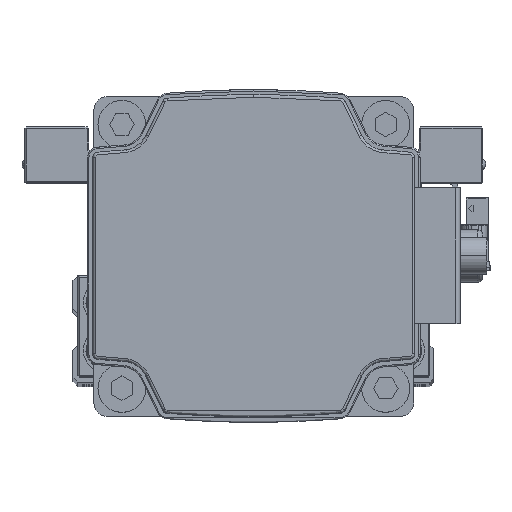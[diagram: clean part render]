
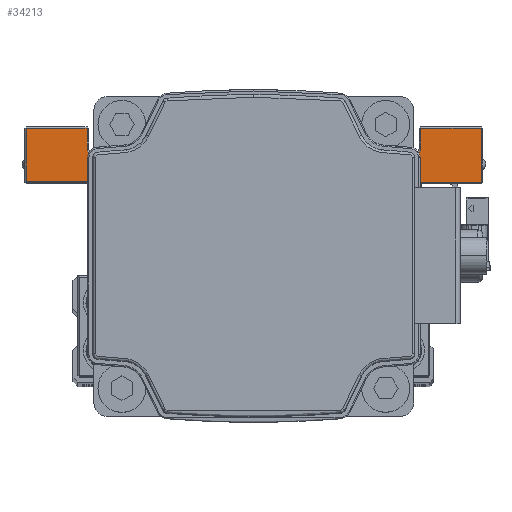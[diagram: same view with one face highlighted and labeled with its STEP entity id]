
A CAD part, top view. The second image highlights one B-rep face of the part: STEP entity #34213.
In plain terms, the highlighted planar face has unit normal (0, 0, 1) as drawn and (1, 0, 0) by its records, which use the part's own axes.
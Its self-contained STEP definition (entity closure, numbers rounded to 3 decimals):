
#71 = LINE ( 'NONE', #12624, #39124 ) ;
#563 = LINE ( 'NONE', #13104, #18527 ) ;
#1265 = ORIENTED_EDGE ( 'NONE', *, *, #25115, .T. ) ;
#1332 = CARTESIAN_POINT ( 'NONE',  ( 45., 14., 31.3 ) ) ;
#1529 = VERTEX_POINT ( 'NONE', #13995 ) ;
#1790 = DIRECTION ( 'NONE',  ( -1., 0., 0. ) ) ;
#2439 = CARTESIAN_POINT ( 'NONE',  ( 45., 17.7, -31.3 ) ) ;
#2680 = VECTOR ( 'NONE', #7727, 1000. ) ;
#2799 = CARTESIAN_POINT ( 'NONE',  ( 45., 17.7, -20. ) ) ;
#3111 = LINE ( 'NONE', #15665, #25049 ) ;
#3822 = ORIENTED_EDGE ( 'NONE', *, *, #33594, .T. ) ;
#3880 = CARTESIAN_POINT ( 'NONE',  ( 45., 14., -31.3 ) ) ;
#5489 = CARTESIAN_POINT ( 'NONE',  ( 45., 17.7, -42.7 ) ) ;
#5996 = CARTESIAN_POINT ( 'NONE',  ( 45., 7.5, -19.7 ) ) ;
#6068 = VECTOR ( 'NONE', #35204, 1000. ) ;
#6730 = LINE ( 'NONE', #19279, #21924 ) ;
#7092 = EDGE_CURVE ( 'NONE', #13687, #33086, #6730, .T. ) ;
#7260 = VECTOR ( 'NONE', #18561, 1000. ) ;
#7468 = EDGE_CURVE ( 'NONE', #19143, #19203, #563, .T. ) ;
#7520 = EDGE_CURVE ( 'NONE', #1529, #9198, #38595, .T. ) ;
#7727 = DIRECTION ( 'NONE',  ( 0., 0., 1. ) ) ;
#7892 = EDGE_CURVE ( 'NONE', #26796, #23742, #10120, .T. ) ;
#7898 = CARTESIAN_POINT ( 'NONE',  ( 45., 17.7, 31.3 ) ) ;
#8401 = EDGE_LOOP ( 'NONE', ( #1265, #23229, #3822, #33578, #20178, #11636, #16940, #30286, #16565, #33207, #12419, #19901, #18996, #33337 ) ) ;
#8843 = CARTESIAN_POINT ( 'NONE',  ( 45., 12.7, -30. ) ) ;
#9198 = VERTEX_POINT ( 'NONE', #26205 ) ;
#10120 = LINE ( 'NONE', #22673, #6068 ) ;
#10407 = CARTESIAN_POINT ( 'NONE',  ( 45., 7.5, 42.7 ) ) ;
#10420 = CARTESIAN_POINT ( 'NONE',  ( 45., 14., -30. ) ) ;
#10693 = EDGE_CURVE ( 'NONE', #34943, #26699, #71, .T. ) ;
#11041 = DIRECTION ( 'NONE',  ( -1., 0., 0. ) ) ;
#11226 = LINE ( 'NONE', #23775, #18452 ) ;
#11429 = LINE ( 'NONE', #23973, #13509 ) ;
#11488 = DIRECTION ( 'NONE',  ( 0., 0., -1. ) ) ;
#11636 = ORIENTED_EDGE ( 'NONE', *, *, #38144, .T. ) ;
#11959 = AXIS2_PLACEMENT_3D ( 'NONE', #39226, #11041, #23581 ) ;
#12419 = ORIENTED_EDGE ( 'NONE', *, *, #7520, .T. ) ;
#12624 = CARTESIAN_POINT ( 'NONE',  ( 45., 7.5, 43. ) ) ;
#12802 = VERTEX_POINT ( 'NONE', #3880 ) ;
#13104 = CARTESIAN_POINT ( 'NONE',  ( 45., 7.5, 31.3 ) ) ;
#13509 = VECTOR ( 'NONE', #36524, 1000. ) ;
#13628 = CARTESIAN_POINT ( 'NONE',  ( 45., 7.5, -19.7 ) ) ;
#13687 = VERTEX_POINT ( 'NONE', #13815 ) ;
#13815 = CARTESIAN_POINT ( 'NONE',  ( 45., -8.2, 19.7 ) ) ;
#13833 = CARTESIAN_POINT ( 'NONE',  ( 45., 7.5, -42.7 ) ) ;
#13995 = CARTESIAN_POINT ( 'NONE',  ( 45., 17.7, 42.7 ) ) ;
#14122 = FACE_OUTER_BOUND ( 'NONE', #8401, .T. ) ;
#14334 = DIRECTION ( 'NONE',  ( 0., 0., 1. ) ) ;
#15357 = DIRECTION ( 'NONE',  ( 0., 0., 1. ) ) ;
#15665 = CARTESIAN_POINT ( 'NONE',  ( 45., 7.5, -42.7 ) ) ;
#16425 = AXIS2_PLACEMENT_3D ( 'NONE', #29984, #1790, #14334 ) ;
#16559 = CARTESIAN_POINT ( 'NONE',  ( 45., 7.8, 19.7 ) ) ;
#16565 = ORIENTED_EDGE ( 'NONE', *, *, #7468, .T. ) ;
#16940 = ORIENTED_EDGE ( 'NONE', *, *, #7892, .T. ) ;
#17713 = CARTESIAN_POINT ( 'NONE',  ( 45., 12.7, 30. ) ) ;
#18452 = VECTOR ( 'NONE', #36318, 1000. ) ;
#18527 = VECTOR ( 'NONE', #25653, 1000. ) ;
#18561 = DIRECTION ( 'NONE',  ( 0., 1., 0. ) ) ;
#18996 = ORIENTED_EDGE ( 'NONE', *, *, #33060, .T. ) ;
#19088 = AXIS2_PLACEMENT_3D ( 'NONE', #10420, #22976, #35513 ) ;
#19143 = VERTEX_POINT ( 'NONE', #1332 ) ;
#19203 = VERTEX_POINT ( 'NONE', #7898 ) ;
#19279 = CARTESIAN_POINT ( 'NONE',  ( 45., -8.2, -20. ) ) ;
#19805 = VERTEX_POINT ( 'NONE', #2439 ) ;
#19901 = ORIENTED_EDGE ( 'NONE', *, *, #32598, .T. ) ;
#20178 = ORIENTED_EDGE ( 'NONE', *, *, #36512, .T. ) ;
#21544 = EDGE_CURVE ( 'NONE', #19203, #1529, #30989, .T. ) ;
#21711 = VERTEX_POINT ( 'NONE', #16559 ) ;
#21924 = VECTOR ( 'NONE', #31830, 1000. ) ;
#22084 = VECTOR ( 'NONE', #15357, 1000. ) ;
#22673 = CARTESIAN_POINT ( 'NONE',  ( 45., 12.7, 30. ) ) ;
#22958 = DIRECTION ( 'NONE',  ( 0., -1., 0. ) ) ;
#22976 = DIRECTION ( 'NONE',  ( -1., 0., 0. ) ) ;
#23229 = ORIENTED_EDGE ( 'NONE', *, *, #10693, .T. ) ;
#23360 = LINE ( 'NONE', #35904, #2680 ) ;
#23581 = DIRECTION ( 'NONE',  ( 0., 0., 1. ) ) ;
#23742 = VERTEX_POINT ( 'NONE', #17713 ) ;
#23775 = CARTESIAN_POINT ( 'NONE',  ( 45., 7.5, 19.7 ) ) ;
#23973 = CARTESIAN_POINT ( 'NONE',  ( 45., 7.5, -31.3 ) ) ;
#24600 = EDGE_CURVE ( 'NONE', #23742, #19143, #34173, .T. ) ;
#25049 = VECTOR ( 'NONE', #28200, 1000. ) ;
#25115 = EDGE_CURVE ( 'NONE', #33086, #34943, #34180, .T. ) ;
#25179 = DIRECTION ( 'NONE',  ( 0., 0., -1. ) ) ;
#25644 = VECTOR ( 'NONE', #11488, 1000. ) ;
#25653 = DIRECTION ( 'NONE',  ( 0., 1., 0. ) ) ;
#26205 = CARTESIAN_POINT ( 'NONE',  ( 45., 7.8, 42.7 ) ) ;
#26674 = PLANE ( 'NONE',  #11959 ) ;
#26699 = VERTEX_POINT ( 'NONE', #13833 ) ;
#26796 = VERTEX_POINT ( 'NONE', #8843 ) ;
#27135 = LINE ( 'NONE', #39672, #25644 ) ;
#28200 = DIRECTION ( 'NONE',  ( 0., 1., 0. ) ) ;
#29984 = CARTESIAN_POINT ( 'NONE',  ( 45., 14., 30. ) ) ;
#30085 = EDGE_CURVE ( 'NONE', #39517, #19805, #23360, .T. ) ;
#30286 = ORIENTED_EDGE ( 'NONE', *, *, #24600, .T. ) ;
#30989 = LINE ( 'NONE', #2799, #22084 ) ;
#31830 = DIRECTION ( 'NONE',  ( 0., 0., -1. ) ) ;
#32307 = VECTOR ( 'NONE', #22958, 1000. ) ;
#32598 = EDGE_CURVE ( 'NONE', #9198, #21711, #27135, .T. ) ;
#33060 = EDGE_CURVE ( 'NONE', #21711, #13687, #11226, .T. ) ;
#33086 = VERTEX_POINT ( 'NONE', #36532 ) ;
#33207 = ORIENTED_EDGE ( 'NONE', *, *, #21544, .T. ) ;
#33337 = ORIENTED_EDGE ( 'NONE', *, *, #7092, .T. ) ;
#33578 = ORIENTED_EDGE ( 'NONE', *, *, #30085, .T. ) ;
#33594 = EDGE_CURVE ( 'NONE', #26699, #39517, #3111, .T. ) ;
#34173 = CIRCLE ( 'NONE', #16425, 1.3 ) ;
#34180 = LINE ( 'NONE', #5996, #7260 ) ;
#34213 = ADVANCED_FACE ( 'NONE', ( #14122 ), #26674, .F. ) ;
#34943 = VERTEX_POINT ( 'NONE', #13628 ) ;
#35204 = DIRECTION ( 'NONE',  ( 0., 0., 1. ) ) ;
#35513 = DIRECTION ( 'NONE',  ( 0., 0., 1. ) ) ;
#35904 = CARTESIAN_POINT ( 'NONE',  ( 45., 17.7, -20. ) ) ;
#36318 = DIRECTION ( 'NONE',  ( 0., -1., 0. ) ) ;
#36512 = EDGE_CURVE ( 'NONE', #19805, #12802, #11429, .T. ) ;
#36524 = DIRECTION ( 'NONE',  ( 0., -1., 0. ) ) ;
#36532 = CARTESIAN_POINT ( 'NONE',  ( 45., -8.2, -19.7 ) ) ;
#36810 = CIRCLE ( 'NONE', #19088, 1.3 ) ;
#38144 = EDGE_CURVE ( 'NONE', #12802, #26796, #36810, .T. ) ;
#38595 = LINE ( 'NONE', #10407, #32307 ) ;
#39124 = VECTOR ( 'NONE', #25179, 1000. ) ;
#39226 = CARTESIAN_POINT ( 'NONE',  ( 45., 7.5, -20. ) ) ;
#39517 = VERTEX_POINT ( 'NONE', #5489 ) ;
#39672 = CARTESIAN_POINT ( 'NONE',  ( 45., 7.8, 20. ) ) ;
